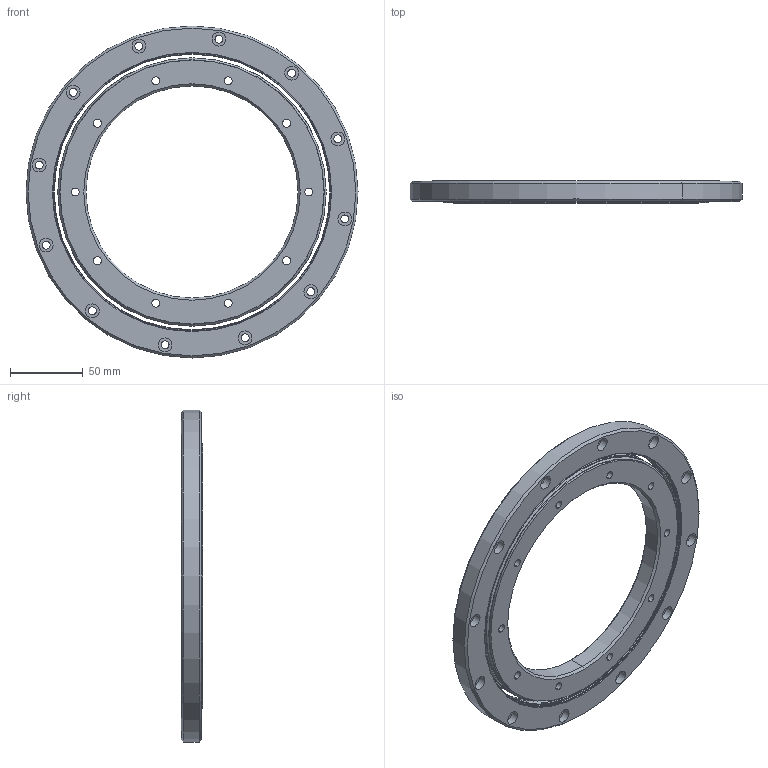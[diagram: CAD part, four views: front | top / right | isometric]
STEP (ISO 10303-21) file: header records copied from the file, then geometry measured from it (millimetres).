
FILE_DESCRIPTION (( 'STEP AP214' ), '1' );
FILE_NAME ('TTS2-147-230-15 Bearing Assembly.STEP', '2018-03-14T15:15:59', ( 'Admin' ), ( '' ), 'SwSTEP 2.0', 'SolidWorks 2018', '' );
FILE_SCHEMA (( 'AUTOMOTIVE_DESIGN' ));
Length unit declared in the file: inch
Products named in the file (3): TTS2 Outer Ring_TTS2-147-230-15; TTS2 Inner Ring_TTS2-147-230-15; TTS2-147-230-15 Bearing Assembly
Assembly tree (2 placements, depth 2):
  TTS2-147-230-15 Bearing Assembly
    TTS2 Inner Ring_TTS2-147-230-15
    TTS2 Outer Ring_TTS2-147-230-15
Bounding box: 228.6 x 15 x 228.6 mm (x, y, z)
Volume: 293049.4 mm3; surface area: 82334.8 mm2
Topology: 2 solids, 2 shells, 190 faces, 424 edges, 262 vertices
Faces by surface type: cylinder 112, cone 28, plane 28, torus 22
Entity records: 5576 total; most frequent: DIRECTION 1098, CARTESIAN_POINT 881, ORIENTED_EDGE 848, AXIS2_PLACEMENT_3D 479, EDGE_CURVE 424, CIRCLE 284, VERTEX_POINT 262, EDGE_LOOP 262
